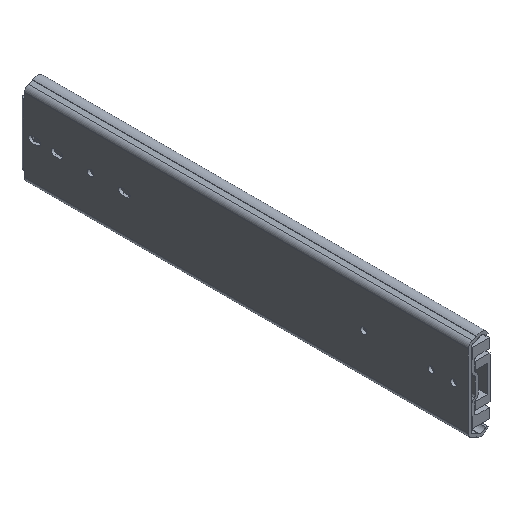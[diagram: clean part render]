
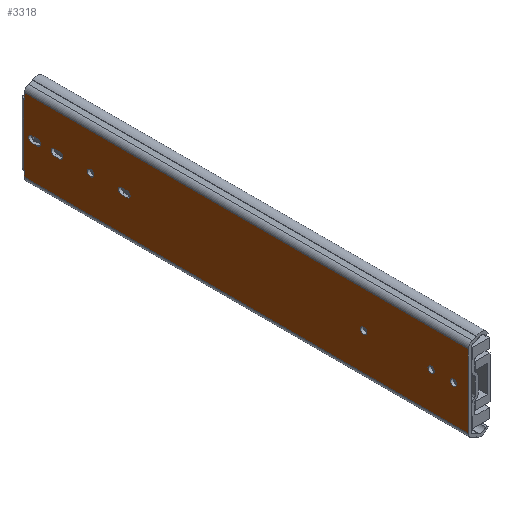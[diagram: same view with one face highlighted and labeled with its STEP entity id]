
A CAD part, isometric view. The second image highlights one B-rep face of the part: STEP entity #3318.
In plain terms, the highlighted planar face has unit normal (-1, 0, 0).
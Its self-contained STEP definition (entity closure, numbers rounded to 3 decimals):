
#129=PLANE('',#4014);
#383=LINE('',#5663,#714);
#390=LINE('',#5692,#721);
#391=LINE('',#5697,#722);
#406=LINE('',#5744,#737);
#413=LINE('',#5769,#744);
#423=LINE('',#5798,#754);
#426=LINE('',#5820,#757);
#430=LINE('',#5832,#761);
#434=LINE('',#5848,#765);
#441=LINE('',#5867,#772);
#444=LINE('',#5876,#775);
#450=LINE('',#5907,#781);
#456=LINE('',#5923,#787);
#457=LINE('',#5925,#788);
#714=VECTOR('',#4686,1000.);
#721=VECTOR('',#4715,1000.);
#722=VECTOR('',#4720,1000.);
#737=VECTOR('',#4765,1000.);
#744=VECTOR('',#4790,1000.);
#754=VECTOR('',#4822,1000.);
#757=VECTOR('',#4845,1000.);
#761=VECTOR('',#4857,1000.);
#765=VECTOR('',#4875,1000.);
#772=VECTOR('',#4890,1000.);
#775=VECTOR('',#4901,1000.);
#781=VECTOR('',#4927,1000.);
#787=VECTOR('',#4947,1000.);
#788=VECTOR('',#4950,1000.);
#1689=ORIENTED_EDGE('',*,*,#2212,.F.);
#1690=ORIENTED_EDGE('',*,*,#2171,.T.);
#1691=ORIENTED_EDGE('',*,*,#2175,.F.);
#1692=ORIENTED_EDGE('',*,*,#2210,.T.);
#1693=ORIENTED_EDGE('',*,*,#2189,.T.);
#1694=ORIENTED_EDGE('',*,*,#2187,.T.);
#1695=ORIENTED_EDGE('',*,*,#2184,.T.);
#1696=ORIENTED_EDGE('',*,*,#2181,.T.);
#1697=ORIENTED_EDGE('',*,*,#2164,.F.);
#1698=ORIENTED_EDGE('',*,*,#2161,.F.);
#1699=ORIENTED_EDGE('',*,*,#2170,.F.);
#1700=ORIENTED_EDGE('',*,*,#2167,.F.);
#1701=ORIENTED_EDGE('',*,*,#2157,.F.);
#1702=ORIENTED_EDGE('',*,*,#2155,.F.);
#1703=ORIENTED_EDGE('',*,*,#2153,.F.);
#1704=ORIENTED_EDGE('',*,*,#2196,.F.);
#1705=ORIENTED_EDGE('',*,*,#2213,.T.);
#1706=ORIENTED_EDGE('',*,*,#2137,.F.);
#1707=ORIENTED_EDGE('',*,*,#2202,.T.);
#1708=ORIENTED_EDGE('',*,*,#2085,.T.);
#1709=ORIENTED_EDGE('',*,*,#2152,.T.);
#1710=ORIENTED_EDGE('',*,*,#2099,.F.);
#1711=ORIENTED_EDGE('',*,*,#2124,.F.);
#1712=ORIENTED_EDGE('',*,*,#2101,.T.);
#2085=EDGE_CURVE('',#2453,#2452,#383,.T.);
#2099=EDGE_CURVE('',#2463,#2462,#390,.T.);
#2101=EDGE_CURVE('',#2466,#2465,#391,.T.);
#2124=EDGE_CURVE('',#2466,#2463,#406,.T.);
#2137=EDGE_CURVE('',#2491,#2492,#413,.T.);
#2152=EDGE_CURVE('',#2452,#2462,#423,.T.);
#2153=EDGE_CURVE('',#2500,#2500,#2659,.T.);
#2155=EDGE_CURVE('',#2502,#2502,#2661,.T.);
#2157=EDGE_CURVE('',#2504,#2504,#2663,.T.);
#2161=EDGE_CURVE('',#2508,#2509,#426,.T.);
#2164=EDGE_CURVE('',#2509,#2511,#2666,.T.);
#2167=EDGE_CURVE('',#2511,#2513,#430,.T.);
#2170=EDGE_CURVE('',#2513,#2508,#2668,.T.);
#2171=EDGE_CURVE('',#2514,#2515,#2669,.T.);
#2175=EDGE_CURVE('',#2518,#2515,#434,.T.);
#2181=EDGE_CURVE('',#2521,#2523,#2672,.T.);
#2184=EDGE_CURVE('',#2525,#2521,#441,.T.);
#2187=EDGE_CURVE('',#2527,#2525,#2674,.T.);
#2189=EDGE_CURVE('',#2523,#2527,#444,.T.);
#2196=EDGE_CURVE('',#2534,#2534,#2677,.T.);
#2202=EDGE_CURVE('',#2491,#2453,#450,.T.);
#2210=EDGE_CURVE('',#2518,#2541,#2680,.T.);
#2212=EDGE_CURVE('',#2514,#2541,#456,.T.);
#2213=EDGE_CURVE('',#2465,#2492,#457,.T.);
#2452=VERTEX_POINT('',#5662);
#2453=VERTEX_POINT('',#5664);
#2462=VERTEX_POINT('',#5689);
#2463=VERTEX_POINT('',#5691);
#2465=VERTEX_POINT('',#5696);
#2466=VERTEX_POINT('',#5698);
#2491=VERTEX_POINT('',#5768);
#2492=VERTEX_POINT('',#5770);
#2500=VERTEX_POINT('',#5801);
#2502=VERTEX_POINT('',#5806);
#2504=VERTEX_POINT('',#5811);
#2508=VERTEX_POINT('',#5819);
#2509=VERTEX_POINT('',#5821);
#2511=VERTEX_POINT('',#5827);
#2513=VERTEX_POINT('',#5833);
#2514=VERTEX_POINT('',#5840);
#2515=VERTEX_POINT('',#5841);
#2518=VERTEX_POINT('',#5849);
#2521=VERTEX_POINT('',#5856);
#2523=VERTEX_POINT('',#5860);
#2525=VERTEX_POINT('',#5865);
#2527=VERTEX_POINT('',#5871);
#2534=VERTEX_POINT('',#5892);
#2541=VERTEX_POINT('',#5920);
#2659=CIRCLE('',#3968,2.6);
#2661=CIRCLE('',#3971,2.6);
#2663=CIRCLE('',#3974,2.6);
#2666=CIRCLE('',#3979,2.6);
#2668=CIRCLE('',#3983,2.6);
#2669=CIRCLE('',#3985,2.6);
#2672=CIRCLE('',#3990,2.619);
#2674=CIRCLE('',#3994,2.619);
#2677=CIRCLE('',#4000,2.6);
#2680=CIRCLE('',#4011,2.6);
#2872=EDGE_LOOP('',(#1689,#1690,#1691,#1692));
#2873=EDGE_LOOP('',(#1693,#1694,#1695,#1696));
#2874=EDGE_LOOP('',(#1697,#1698,#1699,#1700));
#2875=EDGE_LOOP('',(#1701));
#2876=EDGE_LOOP('',(#1702));
#2877=EDGE_LOOP('',(#1703));
#2878=EDGE_LOOP('',(#1704));
#2879=EDGE_LOOP('',(#1705,#1706,#1707,#1708,#1709,#1710,#1711,#1712));
#3077=FACE_BOUND('',#2872,.T.);
#3078=FACE_BOUND('',#2873,.T.);
#3079=FACE_BOUND('',#2874,.T.);
#3080=FACE_BOUND('',#2875,.T.);
#3081=FACE_BOUND('',#2876,.T.);
#3082=FACE_BOUND('',#2877,.T.);
#3083=FACE_BOUND('',#2878,.T.);
#3084=FACE_BOUND('',#2879,.T.);
#3318=ADVANCED_FACE('',(#3077,#3078,#3079,#3080,#3081,#3082,#3083,#3084),
#129,.F.);
#3968=AXIS2_PLACEMENT_3D('',#5800,#4825,#4826);
#3971=AXIS2_PLACEMENT_3D('',#5805,#4831,#4832);
#3974=AXIS2_PLACEMENT_3D('',#5810,#4837,#4838);
#3979=AXIS2_PLACEMENT_3D('',#5826,#4851,#4852);
#3983=AXIS2_PLACEMENT_3D('',#5837,#4863,#4864);
#3985=AXIS2_PLACEMENT_3D('',#5839,#4867,#4868);
#3990=AXIS2_PLACEMENT_3D('',#5861,#4884,#4885);
#3994=AXIS2_PLACEMENT_3D('',#5873,#4896,#4897);
#4000=AXIS2_PLACEMENT_3D('',#5891,#4914,#4915);
#4011=AXIS2_PLACEMENT_3D('',#5919,#4942,#4943);
#4014=AXIS2_PLACEMENT_3D('',#5927,#4952,#4953);
#4686=DIRECTION('',(0.,-1.,0.));
#4715=DIRECTION('',(0.,1.,0.));
#4720=DIRECTION('',(0.,1.,0.));
#4765=DIRECTION('',(0.,0.,-1.));
#4790=DIRECTION('',(0.,-1.,0.));
#4822=DIRECTION('',(0.,0.,-1.));
#4825=DIRECTION('',(-1.,0.,0.));
#4826=DIRECTION('',(0.,1.,0.));
#4831=DIRECTION('',(-1.,0.,0.));
#4832=DIRECTION('',(0.,1.,0.));
#4837=DIRECTION('',(-1.,0.,0.));
#4838=DIRECTION('',(0.,1.,0.));
#4845=DIRECTION('',(0.,-1.,0.));
#4851=DIRECTION('',(-1.,0.,0.));
#4852=DIRECTION('',(0.,1.,0.));
#4857=DIRECTION('',(0.,1.,0.));
#4863=DIRECTION('',(-1.,0.,0.));
#4864=DIRECTION('',(0.,-1.,0.));
#4867=DIRECTION('',(1.,0.,0.));
#4868=DIRECTION('',(0.,0.,-1.));
#4875=DIRECTION('',(0.,1.,0.));
#4884=DIRECTION('',(1.,0.,0.));
#4885=DIRECTION('',(0.,0.,-1.));
#4890=DIRECTION('',(0.,1.,0.));
#4896=DIRECTION('',(1.,0.,0.));
#4897=DIRECTION('',(0.,0.,-1.));
#4901=DIRECTION('',(0.,-1.,0.));
#4914=DIRECTION('',(-1.,0.,0.));
#4915=DIRECTION('',(0.,1.,0.));
#4927=DIRECTION('',(0.,0.,-1.));
#4942=DIRECTION('',(1.,0.,0.));
#4943=DIRECTION('',(0.,0.,-1.));
#4947=DIRECTION('',(0.,-1.,0.));
#4950=DIRECTION('',(0.,0.,-1.));
#4952=DIRECTION('',(1.,0.,0.));
#4953=DIRECTION('',(0.,0.,-1.));
#5662=CARTESIAN_POINT('',(0.,377.,-26.15));
#5663=CARTESIAN_POINT('',(0.,377.5,-26.15));
#5664=CARTESIAN_POINT('',(0.,377.5,-26.15));
#5689=CARTESIAN_POINT('',(0.,377.,-31.142));
#5691=CARTESIAN_POINT('',(0.,0.,-31.142));
#5692=CARTESIAN_POINT('',(0.,0.,-31.142));
#5696=CARTESIAN_POINT('',(0.,377.,31.132));
#5697=CARTESIAN_POINT('',(0.,0.,31.132));
#5698=CARTESIAN_POINT('',(0.,0.,31.132));
#5744=CARTESIAN_POINT('',(0.,0.,31.132));
#5768=CARTESIAN_POINT('',(0.,377.5,26.15));
#5769=CARTESIAN_POINT('',(0.,377.5,26.15));
#5770=CARTESIAN_POINT('',(0.,377.,26.15));
#5798=CARTESIAN_POINT('',(0.,377.,31.132));
#5800=CARTESIAN_POINT('',(0.,31.75,-0.006));
#5801=CARTESIAN_POINT('',(0.,34.35,-0.006));
#5805=CARTESIAN_POINT('',(0.,88.9,-0.006));
#5806=CARTESIAN_POINT('',(0.,91.5,-0.006));
#5810=CARTESIAN_POINT('',(0.,320.7,-0.006));
#5811=CARTESIAN_POINT('',(0.,323.3,-0.006));
#5819=CARTESIAN_POINT('',(0.,294.4,-2.605));
#5820=CARTESIAN_POINT('',(0.,294.4,-2.605));
#5821=CARTESIAN_POINT('',(0.,289.8,-2.605));
#5826=CARTESIAN_POINT('',(0.,289.8,-0.005));
#5827=CARTESIAN_POINT('',(0.,289.8,2.595));
#5832=CARTESIAN_POINT('',(0.,294.4,2.595));
#5833=CARTESIAN_POINT('',(0.,294.4,2.595));
#5837=CARTESIAN_POINT('',(0.,294.4,-0.005));
#5839=CARTESIAN_POINT('',(0.,370.6,-0.006));
#5840=CARTESIAN_POINT('',(0.,370.6,-2.606));
#5841=CARTESIAN_POINT('',(0.,370.6,2.594));
#5848=CARTESIAN_POINT('',(0.,0.,2.594));
#5849=CARTESIAN_POINT('',(0.,366.,2.594));
#5856=CARTESIAN_POINT('',(0.,351.899,-2.606));
#5860=CARTESIAN_POINT('',(0.,351.899,2.594));
#5861=CARTESIAN_POINT('',(0.,351.581,-0.006));
#5865=CARTESIAN_POINT('',(0.,346.701,-2.606));
#5867=CARTESIAN_POINT('',(0.,0.,-2.606));
#5871=CARTESIAN_POINT('',(0.,346.701,2.594));
#5873=CARTESIAN_POINT('',(0.,347.019,-0.006));
#5876=CARTESIAN_POINT('',(0.,0.,2.594));
#5891=CARTESIAN_POINT('',(0.,12.7,-0.006));
#5892=CARTESIAN_POINT('',(0.,15.3,-0.006));
#5907=CARTESIAN_POINT('',(0.,377.5,26.15));
#5919=CARTESIAN_POINT('',(0.,366.,-0.006));
#5920=CARTESIAN_POINT('',(0.,366.,-2.606));
#5923=CARTESIAN_POINT('',(0.,0.,-2.606));
#5925=CARTESIAN_POINT('',(0.,377.,31.132));
#5927=CARTESIAN_POINT('',(0.,0.,31.132));
